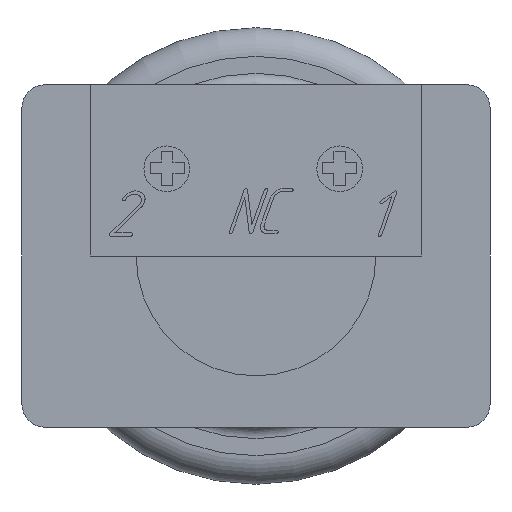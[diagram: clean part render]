
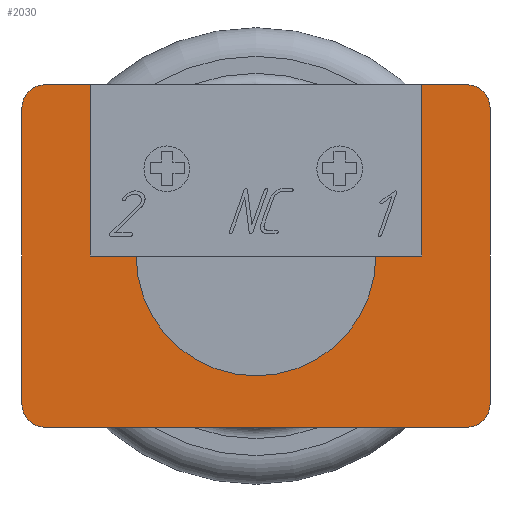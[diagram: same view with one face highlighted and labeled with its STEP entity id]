
A CAD part, front view. The second image highlights one B-rep face of the part: STEP entity #2030.
In plain terms, the highlighted planar face has unit normal (0, -1, 0).
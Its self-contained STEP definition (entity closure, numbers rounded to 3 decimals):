
#2030=ADVANCED_FACE('',(#4099),#4101,.F.);
#4099=FACE_BOUND('',#4100,.T.);
#4100=EDGE_LOOP('',(#5769,#5770,#5771,#5772,#5773,#5774,#5775,#5776,#5777,#5778,
#5779,#5780,#5781,#5782));
#4101=PLANE('',#4102);
#4102=AXIS2_PLACEMENT_3D('',#4103,#4104,#4105);
#4103=CARTESIAN_POINT('',(0.,0.,0.));
#4104=DIRECTION('',(-0.,1.,0.));
#4105=DIRECTION('',(1.,0.,0.));
#5769=ORIENTED_EDGE('',*,*,#6667,.F.);
#5770=ORIENTED_EDGE('',*,*,#6649,.F.);
#5771=ORIENTED_EDGE('',*,*,#6668,.T.);
#5772=ORIENTED_EDGE('',*,*,#6647,.F.);
#5773=ORIENTED_EDGE('',*,*,#6669,.F.);
#5774=ORIENTED_EDGE('',*,*,#6656,.F.);
#5775=ORIENTED_EDGE('',*,*,#6670,.F.);
#5776=ORIENTED_EDGE('',*,*,#6671,.F.);
#5777=ORIENTED_EDGE('',*,*,#6672,.F.);
#5778=ORIENTED_EDGE('',*,*,#6673,.F.);
#5779=ORIENTED_EDGE('',*,*,#6674,.F.);
#5780=ORIENTED_EDGE('',*,*,#6675,.F.);
#5781=ORIENTED_EDGE('',*,*,#6676,.F.);
#5782=ORIENTED_EDGE('',*,*,#6660,.F.);
#6647=EDGE_CURVE('',#7736,#7737,#7738,.T.);
#6649=EDGE_CURVE('',#7739,#7741,#7742,.T.);
#6656=EDGE_CURVE('',#7752,#7753,#7754,.T.);
#6660=EDGE_CURVE('',#7758,#7760,#7761,.T.);
#6667=EDGE_CURVE('',#7741,#7758,#7772,.F.);
#6668=EDGE_CURVE('',#7739,#7737,#7773,.T.);
#6669=EDGE_CURVE('',#7753,#7736,#7774,.F.);
#6670=EDGE_CURVE('',#7775,#7752,#7776,.T.);
#6671=EDGE_CURVE('',#7777,#7775,#7778,.T.);
#6672=EDGE_CURVE('',#7779,#7777,#7780,.T.);
#6673=EDGE_CURVE('',#7781,#7779,#7782,.T.);
#6674=EDGE_CURVE('',#7783,#7781,#7784,.T.);
#6675=EDGE_CURVE('',#7785,#7783,#7786,.T.);
#6676=EDGE_CURVE('',#7760,#7785,#7787,.T.);
#7736=VERTEX_POINT('',#10231);
#7737=VERTEX_POINT('',#10232);
#7738=LINE('',#10233,#10234);
#7739=VERTEX_POINT('',#10236);
#7741=VERTEX_POINT('',#10240);
#7742=LINE('',#10241,#10242);
#7752=VERTEX_POINT('',#10265);
#7753=VERTEX_POINT('',#10266);
#7754=LINE('',#10267,#10268);
#7758=VERTEX_POINT('',#10277);
#7760=VERTEX_POINT('',#10281);
#7761=LINE('',#10282,#10283);
#7772=LINE('',#10309,#10310);
#7773=CIRCLE('',#10312,10.5);
#7774=LINE('',#10316,#10317);
#7775=VERTEX_POINT('',#10319);
#7776=CIRCLE('',#10320,2.);
#7777=VERTEX_POINT('',#10324);
#7778=LINE('',#10325,#10326);
#7779=VERTEX_POINT('',#10328);
#7780=CIRCLE('',#10329,2.);
#7781=VERTEX_POINT('',#10333);
#7782=LINE('',#10334,#10335);
#7783=VERTEX_POINT('',#10337);
#7784=CIRCLE('',#10338,2.);
#7785=VERTEX_POINT('',#10342);
#7786=LINE('',#10343,#10344);
#7787=CIRCLE('',#10346,2.);
#10231=CARTESIAN_POINT('',(-13.,0.,0.));
#10232=CARTESIAN_POINT('',(-10.5,0.,0.));
#10233=CARTESIAN_POINT('',(-13.,0.,0.));
#10234=VECTOR('',#10235,1.);
#10235=DIRECTION('',(1.,0.,0.));
#10236=CARTESIAN_POINT('',(10.5,0.,0.));
#10240=CARTESIAN_POINT('',(13.,0.,0.));
#10241=CARTESIAN_POINT('',(10.5,0.,0.));
#10242=VECTOR('',#10243,1.);
#10243=DIRECTION('',(1.,0.,0.));
#10265=CARTESIAN_POINT('',(-18.5,0.,15.));
#10266=CARTESIAN_POINT('',(-13.,0.,15.));
#10267=CARTESIAN_POINT('',(-18.5,0.,15.));
#10268=VECTOR('',#10269,1.);
#10269=DIRECTION('',(1.,0.,0.));
#10277=CARTESIAN_POINT('',(13.,0.,15.));
#10281=CARTESIAN_POINT('',(18.5,0.,15.));
#10282=CARTESIAN_POINT('',(13.,0.,15.));
#10283=VECTOR('',#10284,1.);
#10284=DIRECTION('',(1.,0.,0.));
#10309=CARTESIAN_POINT('',(13.,0.,15.));
#10310=VECTOR('',#10311,1.);
#10311=DIRECTION('',(0.,0.,-1.));
#10312=AXIS2_PLACEMENT_3D('',#10313,#10314,#10315);
#10313=CARTESIAN_POINT('',(0.,0.,0.));
#10314=DIRECTION('',(-0.,1.,0.));
#10315=DIRECTION('',(1.,0.,0.));
#10316=CARTESIAN_POINT('',(-13.,0.,0.));
#10317=VECTOR('',#10318,1.);
#10318=DIRECTION('',(0.,0.,1.));
#10319=CARTESIAN_POINT('',(-20.5,0.,13.));
#10320=AXIS2_PLACEMENT_3D('',#10321,#10322,#10323);
#10321=CARTESIAN_POINT('',(-18.5,0.,13.));
#10322=DIRECTION('',(-0.,1.,0.));
#10323=DIRECTION('',(-1.,0.,0.));
#10324=CARTESIAN_POINT('',(-20.5,0.,-13.));
#10325=CARTESIAN_POINT('',(-20.5,0.,-13.));
#10326=VECTOR('',#10327,1.);
#10327=DIRECTION('',(0.,0.,1.));
#10328=CARTESIAN_POINT('',(-18.5,0.,-15.));
#10329=AXIS2_PLACEMENT_3D('',#10330,#10331,#10332);
#10330=CARTESIAN_POINT('',(-18.5,0.,-13.));
#10331=DIRECTION('',(-0.,1.,0.));
#10332=DIRECTION('',(0.,0.,-1.));
#10333=CARTESIAN_POINT('',(18.5,0.,-15.));
#10334=CARTESIAN_POINT('',(18.5,0.,-15.));
#10335=VECTOR('',#10336,1.);
#10336=DIRECTION('',(-1.,0.,0.));
#10337=CARTESIAN_POINT('',(20.5,0.,-13.));
#10338=AXIS2_PLACEMENT_3D('',#10339,#10340,#10341);
#10339=CARTESIAN_POINT('',(18.5,0.,-13.));
#10340=DIRECTION('',(-0.,1.,0.));
#10341=DIRECTION('',(1.,0.,0.));
#10342=CARTESIAN_POINT('',(20.5,0.,13.));
#10343=CARTESIAN_POINT('',(20.5,0.,13.));
#10344=VECTOR('',#10345,1.);
#10345=DIRECTION('',(0.,0.,-1.));
#10346=AXIS2_PLACEMENT_3D('',#10347,#10348,#10349);
#10347=CARTESIAN_POINT('',(18.5,0.,13.));
#10348=DIRECTION('',(-0.,1.,0.));
#10349=DIRECTION('',(0.,0.,1.));
